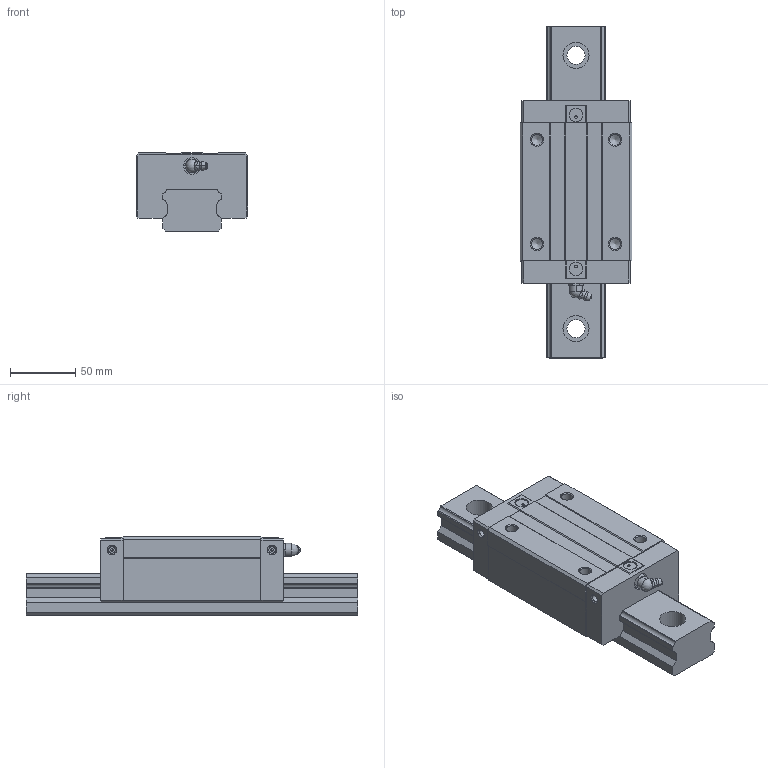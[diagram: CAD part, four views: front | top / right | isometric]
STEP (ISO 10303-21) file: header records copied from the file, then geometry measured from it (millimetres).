
FILE_DESCRIPTION(/* description */ (''),/* implementation_level */ '2;1');
FILE_NAME(/* name */ 'SME45-SB',/* time_stamp */ '2008-10-06T10:43:40+08:00',/* author */ (''),/* organization */ (''),/* preprocessor_version */ 'ST-DEVELOPER v11',/* originating_system */ 'UGS - NX 5.0',/* authorisation */ '');
FILE_SCHEMA (('AUTOMOTIVE_DESIGN { 1 0 10303 214 1 1 1 1 }'));
Length unit declared in the file: millimetre
Products named in the file (1): jillBD1Calqh
Bounding box: 86 x 255 x 60 mm (x, y, z)
Volume: 780072.7 mm3; surface area: 100620 mm2
Topology: 3 solids, 3 shells, 186 faces, 463 edges, 301 vertices
Faces by surface type: plane 110, cylinder 48, cone 14, torus 10, bspline 2, sphere 2
Full cylindrical faces by diameter (mm): 2 x6, 5.2 x4, 8.5 x4, 10.2 x4, 13 x2, 14 x3, 20 x3
Entity records: 5676 total; most frequent: CARTESIAN_POINT 1081, DIRECTION 888, ORIENTED_EDGE 822, EDGE_CURVE 411, AXIS2_PLACEMENT_3D 316, VERTEX_POINT 293, LINE 256, VECTOR 256
